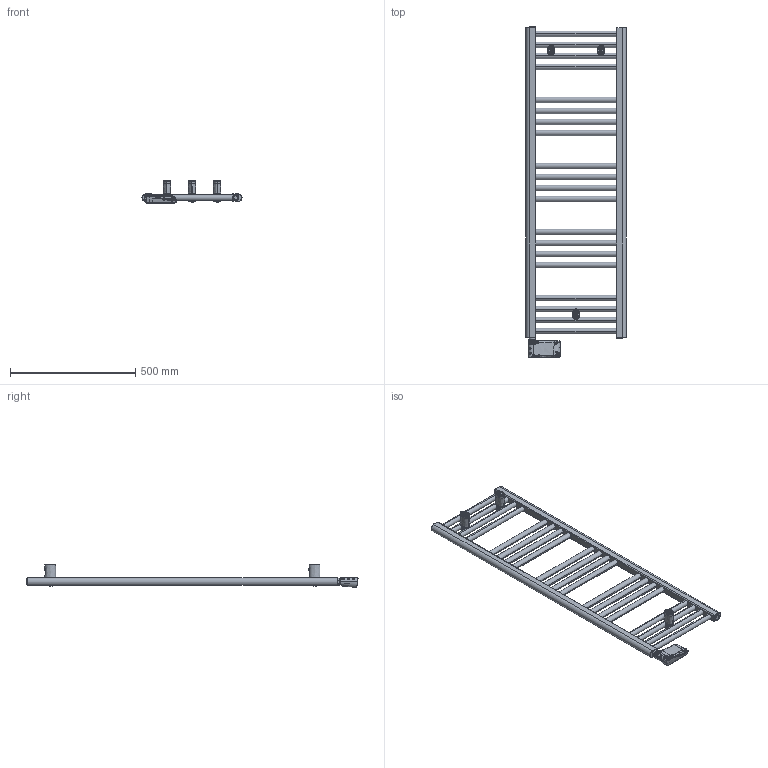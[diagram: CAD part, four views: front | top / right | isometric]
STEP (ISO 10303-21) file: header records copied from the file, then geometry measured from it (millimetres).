
FILE_DESCRIPTION((''),'2;1');
FILE_NAME('3581656100022_3D_SITO_ASM','2026-01-14T10:06:48',('PC132'),(''),'CREO PARAMETRIC BY PTC INC, 2025323','CREO PARAMETRIC BY PTC INC, 2025323','');
FILE_SCHEMA(('AUTOMOTIVE_DESIGN { 1 0 10303 214 1 1 1 1 }'));
Length unit declared in the file: millimetre
Products named in the file (15): 2551650500205_3D_SITO; BICCHIERE_PARETE; PERNO_SCORROVOLE; DADO_QUADRO_M5_X_GIUNTO; DADO_M6_X_GIUNTO; PERNO_SCORREVOLE_ASM; BASETTA_ANTERIORE; 1527181430001; VITE_CR_M5_16; VITE_CR_SV_M6_35; 1102001310058_ASM; 1010181240001; 1117000001010; 1035270000042; 3581656100022_3D_SITO_ASM
Assembly tree (17 placements, depth 4):
  3581656100022_3D_SITO_ASM
    2551650500205_3D_SITO
    1102001310058_ASM  x3
      BICCHIERE_PARETE
      PERNO_SCORREVOLE_ASM
        PERNO_SCORROVOLE
        DADO_QUADRO_M5_X_GIUNTO
        DADO_M6_X_GIUNTO
      BASETTA_ANTERIORE
      1527181430001
      VITE_CR_M5_16
      VITE_CR_SV_M6_35
    1010181240001  x2
    1117000001010
    1035270000042
Bounding box: 400 x 1326.89 x 91.48 mm (x, y, z)
Volume: 5337220.3 mm3; surface area: 933935 mm2
Topology: 33 solids, 48 shells, 5716 faces, 12954 edges, 7348 vertices
Faces by surface type: cylinder 2126, plane 1239, torus 777, bspline 729, sphere 630, cone 143, extrusion 72
Entity records: 181712 total; most frequent: CARTESIAN_POINT 91862, DIRECTION 12409, ORIENTED_EDGE 12341, PRESENTATION_STYLE_ASSIGNMENT 6225, EDGE_CURVE 6199, STYLED_ITEM 6097, CURVE_STYLE 6077, AXIS2_PLACEMENT_3D 4855
